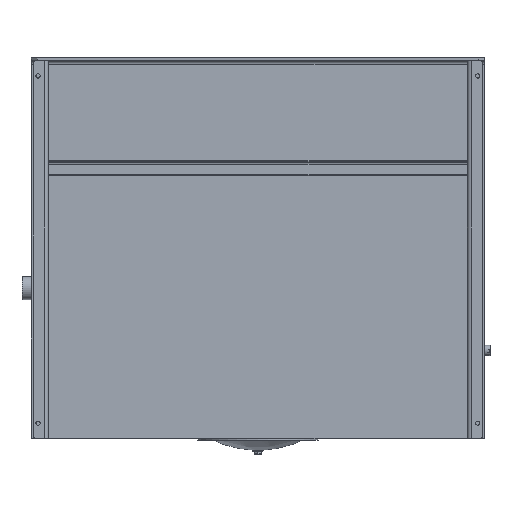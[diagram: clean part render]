
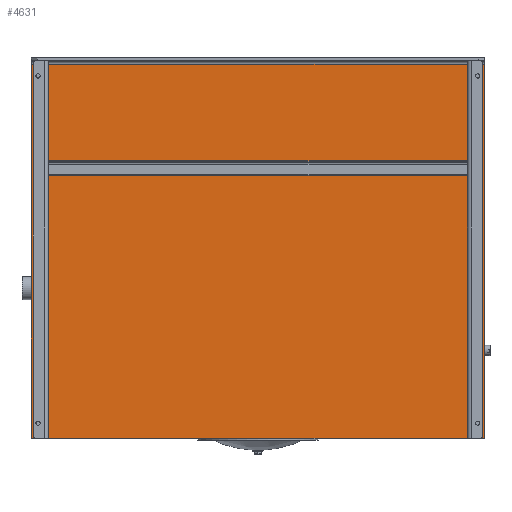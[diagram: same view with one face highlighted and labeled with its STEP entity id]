
A CAD part, front view. The second image highlights one B-rep face of the part: STEP entity #4631.
In plain terms, the highlighted planar face has unit normal (0, -1, 0).
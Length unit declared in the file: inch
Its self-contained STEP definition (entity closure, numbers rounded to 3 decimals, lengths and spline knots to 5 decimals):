
#1406 = EDGE_CURVE ( 'NONE', #2747, #15129, #20181, .T. ) ;
#1638 = CARTESIAN_POINT ( 'NONE',  ( 28.1564, 0.52129, -24.33169 ) ) ;
#2183 = VECTOR ( 'NONE', #21522, 39.37008 ) ;
#2747 = VERTEX_POINT ( 'NONE', #1638 ) ;
#2895 = EDGE_CURVE ( 'NONE', #12390, #2747, #10510, .T. ) ;
#2909 = EDGE_LOOP ( 'NONE', ( #6154, #6105, #3735, #5238 ) ) ;
#3735 = ORIENTED_EDGE ( 'NONE', *, *, #6391, .F. ) ;
#4098 = VECTOR ( 'NONE', #14140, 39.37008 ) ;
#4503 = VERTEX_POINT ( 'NONE', #11206 ) ;
#4631 = ADVANCED_FACE ( 'NONE', ( #17213 ), #10589, .T. ) ;
#5238 = ORIENTED_EDGE ( 'NONE', *, *, #1406, .F. ) ;
#5857 = CARTESIAN_POINT ( 'NONE',  ( -31.8436, 0.52129, -24.33169 ) ) ;
#6105 = ORIENTED_EDGE ( 'NONE', *, *, #6666, .F. ) ;
#6154 = ORIENTED_EDGE ( 'NONE', *, *, #2895, .F. ) ;
#6391 = EDGE_CURVE ( 'NONE', #15129, #4503, #8492, .T. ) ;
#6666 = EDGE_CURVE ( 'NONE', #4503, #12390, #8520, .T. ) ;
#7572 = CARTESIAN_POINT ( 'NONE',  ( 28.1564, 0.52129, 25.19951 ) ) ;
#8492 = LINE ( 'NONE', #20276, #17612 ) ;
#8520 = LINE ( 'NONE', #15346, #4098 ) ;
#9896 = DIRECTION ( 'NONE',  ( 0., 0., -1. ) ) ;
#9913 = DIRECTION ( 'NONE',  ( 0., -1., 0. ) ) ;
#10049 = CARTESIAN_POINT ( 'NONE',  ( -31.8436, 0.52129, -24.33169 ) ) ;
#10510 = LINE ( 'NONE', #21768, #2183 ) ;
#10589 = PLANE ( 'NONE',  #20245 ) ;
#11110 = VECTOR ( 'NONE', #20357, 39.37008 ) ;
#11206 = CARTESIAN_POINT ( 'NONE',  ( -31.8436, 0.52129, 25.19951 ) ) ;
#12390 = VERTEX_POINT ( 'NONE', #7572 ) ;
#14140 = DIRECTION ( 'NONE',  ( 1., 0., 0. ) ) ;
#15129 = VERTEX_POINT ( 'NONE', #5857 ) ;
#15346 = CARTESIAN_POINT ( 'NONE',  ( -31.8436, 0.52129, 25.19951 ) ) ;
#17213 = FACE_OUTER_BOUND ( 'NONE', #2909, .T. ) ;
#17612 = VECTOR ( 'NONE', #21758, 39.37008 ) ;
#20054 = CARTESIAN_POINT ( 'NONE',  ( -31.8436, 0.52129, -24.33169 ) ) ;
#20181 = LINE ( 'NONE', #20054, #11110 ) ;
#20245 = AXIS2_PLACEMENT_3D ( 'NONE', #10049, #9913, #9896 ) ;
#20276 = CARTESIAN_POINT ( 'NONE',  ( -31.8436, 0.52129, 26.04331 ) ) ;
#20357 = DIRECTION ( 'NONE',  ( -1., 0., 0. ) ) ;
#21522 = DIRECTION ( 'NONE',  ( 0., 0., -1. ) ) ;
#21758 = DIRECTION ( 'NONE',  ( 0., 0., 1. ) ) ;
#21768 = CARTESIAN_POINT ( 'NONE',  ( 28.1564, 0.52129, 26.04331 ) ) ;
